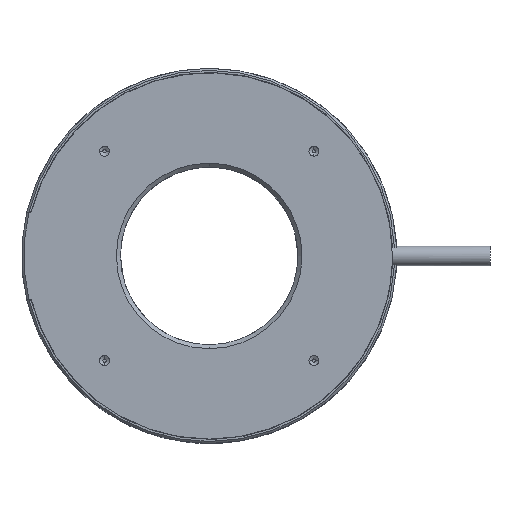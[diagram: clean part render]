
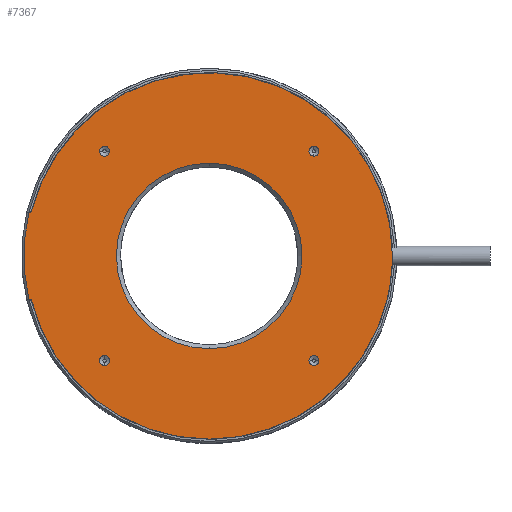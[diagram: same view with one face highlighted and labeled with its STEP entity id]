
A CAD part, top view. The second image highlights one B-rep face of the part: STEP entity #7367.
In plain terms, the highlighted planar face has unit normal (0, 0, 1).
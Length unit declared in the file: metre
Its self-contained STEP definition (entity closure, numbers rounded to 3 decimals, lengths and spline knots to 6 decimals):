
#1564=CARTESIAN_POINT('',(0.,0.,0.002));
#1565=DIRECTION('',(0.,0.,-1.));
#1566=DIRECTION('',(0.,-1.,0.));
#1567=AXIS2_PLACEMENT_3D('',#1564,#1565,#1566);
#1569=CARTESIAN_POINT('',(0.,0.,0.002));
#1570=DIRECTION('',(0.,0.,-1.));
#1571=DIRECTION('',(0.,1.,0.));
#1572=AXIS2_PLACEMENT_3D('',#1569,#1570,#1571);
#1574=CARTESIAN_POINT('',(0.026517,0.026517,0.002));
#1575=DIRECTION('',(0.,0.,-1.));
#1576=DIRECTION('',(0.,1.,0.));
#1577=AXIS2_PLACEMENT_3D('',#1574,#1575,#1576);
#1579=CARTESIAN_POINT('',(0.026517,0.026517,0.002));
#1580=DIRECTION('',(0.,0.,-1.));
#1581=DIRECTION('',(0.,-1.,0.));
#1582=AXIS2_PLACEMENT_3D('',#1579,#1580,#1581);
#1584=CARTESIAN_POINT('',(-0.026517,0.026517,0.002));
#1585=DIRECTION('',(0.,0.,-1.));
#1586=DIRECTION('',(-1.,0.,0.));
#1587=AXIS2_PLACEMENT_3D('',#1584,#1585,#1586);
#1589=CARTESIAN_POINT('',(-0.026517,0.026517,0.002));
#1590=DIRECTION('',(0.,0.,-1.));
#1591=DIRECTION('',(1.,0.,0.));
#1592=AXIS2_PLACEMENT_3D('',#1589,#1590,#1591);
#1594=CARTESIAN_POINT('',(-0.026517,-0.026517,0.002));
#1595=DIRECTION('',(0.,0.,-1.));
#1596=DIRECTION('',(0.,-1.,0.));
#1597=AXIS2_PLACEMENT_3D('',#1594,#1595,#1596);
#1599=CARTESIAN_POINT('',(-0.026517,-0.026517,0.002));
#1600=DIRECTION('',(0.,0.,-1.));
#1601=DIRECTION('',(0.,1.,0.));
#1602=AXIS2_PLACEMENT_3D('',#1599,#1600,#1601);
#1604=CARTESIAN_POINT('',(0.026517,-0.026517,0.002));
#1605=DIRECTION('',(0.,0.,-1.));
#1606=DIRECTION('',(1.,0.,0.));
#1607=AXIS2_PLACEMENT_3D('',#1604,#1605,#1606);
#1609=CARTESIAN_POINT('',(0.026517,-0.026517,0.002));
#1610=DIRECTION('',(0.,0.,-1.));
#1611=DIRECTION('',(-1.,0.,0.));
#1612=AXIS2_PLACEMENT_3D('',#1609,#1610,#1611);
#1614=CARTESIAN_POINT('',(-0.045468,0.0115,0.002));
#1615=DIRECTION('',(0.,0.,-1.));
#1616=DIRECTION('',(0.969,-0.245,0.));
#1617=AXIS2_PLACEMENT_3D('',#1614,#1615,#1616);
#1619=CARTESIAN_POINT('',(0.,0.,0.002));
#1620=DIRECTION('',(0.,0.,1.));
#1621=DIRECTION('',(1.,0.,0.));
#1622=AXIS2_PLACEMENT_3D('',#1619,#1620,#1621);
#1624=CARTESIAN_POINT('',(0.,0.,0.002));
#1625=DIRECTION('',(0.,0.,1.));
#1626=DIRECTION('',(0.969,-0.245,0.));
#1627=AXIS2_PLACEMENT_3D('',#1624,#1625,#1626);
#1629=CARTESIAN_POINT('',(0.,0.,0.002));
#1630=DIRECTION('',(0.,0.,1.));
#1631=DIRECTION('',(-0.969,-0.245,0.));
#1632=AXIS2_PLACEMENT_3D('',#1629,#1630,#1631);
#1634=CARTESIAN_POINT('',(-0.045468,-0.0115,0.002));
#1635=DIRECTION('',(0.,0.,-1.));
#1636=DIRECTION('',(0.,1.,0.));
#1637=AXIS2_PLACEMENT_3D('',#1634,#1635,#1636);
#1639=CARTESIAN_POINT('',(0.,0.,0.002));
#1640=DIRECTION('',(0.,0.,1.));
#1641=DIRECTION('',(-0.972,0.234,0.));
#1642=AXIS2_PLACEMENT_3D('',#1639,#1640,#1641);
#1796=DIRECTION('',(1.,0.,0.));
#1797=VECTOR('',#1796,0.000226);
#1798=CARTESIAN_POINT('',(-0.045695,0.011,0.002));
#1799=LINE('',#1798,#1797);
#3686=DIRECTION('',(-1.,0.,0.));
#3687=VECTOR('',#3686,0.000226);
#3688=CARTESIAN_POINT('',(-0.045468,-0.011,0.002));
#3689=LINE('',#3688,#3687);
#3982=CARTESIAN_POINT('',(-0.044983,-0.011377,0.002));
#3983=CARTESIAN_POINT('',(0.044983,-0.011377,0.002));
#3984=VERTEX_POINT('',#3982);
#3985=VERTEX_POINT('',#3983);
#3986=CARTESIAN_POINT('',(0.0464,0.,0.002));
#3987=VERTEX_POINT('',#3986);
#3988=CARTESIAN_POINT('',(-0.044983,0.011377,0.002));
#3989=VERTEX_POINT('',#3988);
#3990=CARTESIAN_POINT('',(-0.045468,-0.011,0.002));
#3991=VERTEX_POINT('',#3990);
#3992=CARTESIAN_POINT('',(-0.045695,-0.011,0.002));
#3993=VERTEX_POINT('',#3992);
#3994=CARTESIAN_POINT('',(-0.045695,0.011,0.002));
#3995=VERTEX_POINT('',#3994);
#3996=CARTESIAN_POINT('',(-0.045468,0.011,0.002));
#3997=VERTEX_POINT('',#3996);
#3998=CARTESIAN_POINT('',(0.025267,-0.026517,0.002));
#3999=CARTESIAN_POINT('',(0.027767,-0.026517,0.002));
#4000=VERTEX_POINT('',#3998);
#4001=VERTEX_POINT('',#3999);
#4002=CARTESIAN_POINT('',(-0.026517,-0.025267,0.002));
#4003=CARTESIAN_POINT('',(-0.026517,-0.027767,0.002));
#4004=VERTEX_POINT('',#4002);
#4005=VERTEX_POINT('',#4003);
#4006=CARTESIAN_POINT('',(-0.025267,0.026517,0.002));
#4007=CARTESIAN_POINT('',(-0.027767,0.026517,0.002));
#4008=VERTEX_POINT('',#4006);
#4009=VERTEX_POINT('',#4007);
#4010=CARTESIAN_POINT('',(0.026517,0.025267,0.002));
#4011=CARTESIAN_POINT('',(0.026517,0.027767,0.002));
#4012=VERTEX_POINT('',#4010);
#4013=VERTEX_POINT('',#4011);
#4014=CARTESIAN_POINT('',(0.,0.0235,0.002));
#4015=CARTESIAN_POINT('',(0.,-0.0235,0.002));
#4016=VERTEX_POINT('',#4014);
#4017=VERTEX_POINT('',#4015);
#7316=CARTESIAN_POINT('',(0.,0.,0.002));
#7317=DIRECTION('',(0.,0.,-1.));
#7318=DIRECTION('',(0.,1.,0.));
#7319=AXIS2_PLACEMENT_3D('',#7316,#7317,#7318);
#7320=PLANE('',#7319);
#7322=ORIENTED_EDGE('',*,*,#7321,.F.);
#7324=ORIENTED_EDGE('',*,*,#7323,.F.);
#7326=ORIENTED_EDGE('',*,*,#7325,.F.);
#7328=ORIENTED_EDGE('',*,*,#7327,.F.);
#7330=ORIENTED_EDGE('',*,*,#7329,.F.);
#7332=ORIENTED_EDGE('',*,*,#7331,.T.);
#7334=ORIENTED_EDGE('',*,*,#7333,.F.);
#7336=ORIENTED_EDGE('',*,*,#7335,.T.);
#7337=EDGE_LOOP('',(#7322,#7324,#7326,#7328,#7330,#7332,#7334,#7336));
#7338=FACE_OUTER_BOUND('',#7337,.F.);
#7340=ORIENTED_EDGE('',*,*,#7339,.F.);
#7342=ORIENTED_EDGE('',*,*,#7341,.F.);
#7343=EDGE_LOOP('',(#7340,#7342));
#7344=FACE_BOUND('',#7343,.F.);
#7346=ORIENTED_EDGE('',*,*,#7345,.F.);
#7348=ORIENTED_EDGE('',*,*,#7347,.F.);
#7349=EDGE_LOOP('',(#7346,#7348));
#7350=FACE_BOUND('',#7349,.F.);
#7352=ORIENTED_EDGE('',*,*,#7351,.F.);
#7354=ORIENTED_EDGE('',*,*,#7353,.F.);
#7355=EDGE_LOOP('',(#7352,#7354));
#7356=FACE_BOUND('',#7355,.F.);
#7358=ORIENTED_EDGE('',*,*,#7357,.F.);
#7360=ORIENTED_EDGE('',*,*,#7359,.F.);
#7361=EDGE_LOOP('',(#7358,#7360));
#7362=FACE_BOUND('',#7361,.F.);
#7363=ORIENTED_EDGE('',*,*,#7295,.F.);
#7364=ORIENTED_EDGE('',*,*,#7309,.F.);
#7365=EDGE_LOOP('',(#7363,#7364));
#7366=FACE_BOUND('',#7365,.F.);
#7367=ADVANCED_FACE('',(#7338,#7344,#7350,#7356,#7362,#7366),#7320,.F.);
#1568=CIRCLE('',#1567,0.0235);
#1573=CIRCLE('',#1572,0.0235);
#1578=CIRCLE('',#1577,0.00125);
#1583=CIRCLE('',#1582,0.00125);
#1588=CIRCLE('',#1587,0.00125);
#1593=CIRCLE('',#1592,0.00125);
#1598=CIRCLE('',#1597,0.00125);
#1603=CIRCLE('',#1602,0.00125);
#1608=CIRCLE('',#1607,0.00125);
#1613=CIRCLE('',#1612,0.00125);
#1618=CIRCLE('',#1617,0.0005);
#1623=CIRCLE('',#1622,0.0464);
#1628=CIRCLE('',#1627,0.0464);
#1633=CIRCLE('',#1632,0.0464);
#1638=CIRCLE('',#1637,0.0005);
#1643=CIRCLE('',#1642,0.047);
#7295=EDGE_CURVE('',#4017,#4016,#1568,.T.);
#7309=EDGE_CURVE('',#4016,#4017,#1573,.T.);
#7321=EDGE_CURVE('',#3989,#3997,#1618,.T.);
#7323=EDGE_CURVE('',#3987,#3989,#1623,.T.);
#7325=EDGE_CURVE('',#3985,#3987,#1628,.T.);
#7327=EDGE_CURVE('',#3984,#3985,#1633,.T.);
#7329=EDGE_CURVE('',#3991,#3984,#1638,.T.);
#7331=EDGE_CURVE('',#3991,#3993,#3689,.T.);
#7333=EDGE_CURVE('',#3995,#3993,#1643,.T.);
#7335=EDGE_CURVE('',#3995,#3997,#1799,.T.);
#7339=EDGE_CURVE('',#4013,#4012,#1578,.T.);
#7341=EDGE_CURVE('',#4012,#4013,#1583,.T.);
#7345=EDGE_CURVE('',#4009,#4008,#1588,.T.);
#7347=EDGE_CURVE('',#4008,#4009,#1593,.T.);
#7351=EDGE_CURVE('',#4005,#4004,#1598,.T.);
#7353=EDGE_CURVE('',#4004,#4005,#1603,.T.);
#7357=EDGE_CURVE('',#4001,#4000,#1608,.T.);
#7359=EDGE_CURVE('',#4000,#4001,#1613,.T.);
